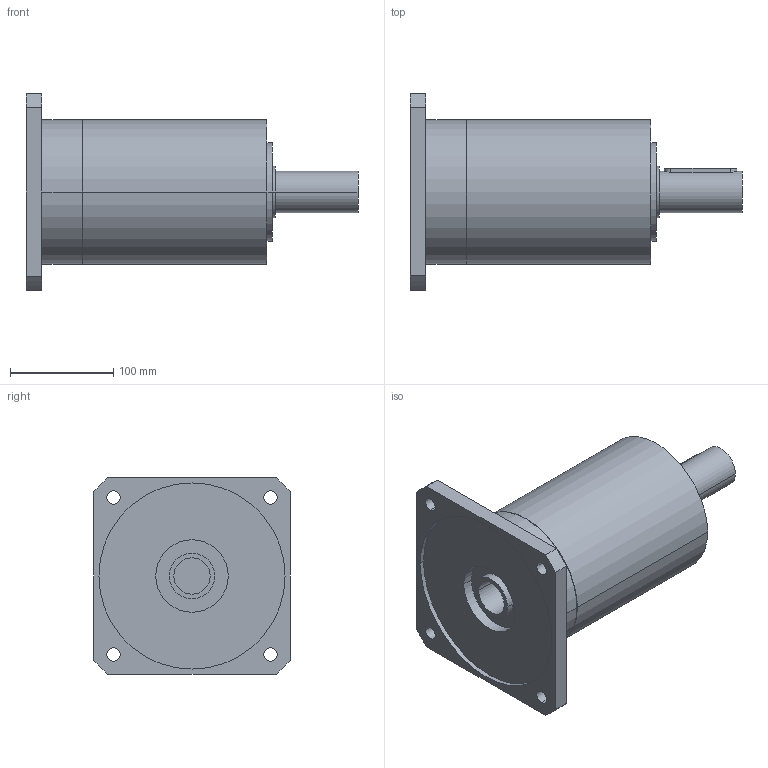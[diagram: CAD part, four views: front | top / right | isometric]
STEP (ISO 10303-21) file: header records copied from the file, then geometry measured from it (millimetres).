
FILE_DESCRIPTION(('CoCreate Modeling STEP Export'),'2;1');
FILE_NAME('GPR150_ig-9-12-16-20-28-35_40_B14_35_P06.stp','2014-08-19T17:04:16',(''),(''),'CoCreate Modeling STEP processor for AP214 (Solid Model)','CoCreate Modeling 16.00C 25-Feb-2009 (C) Parametric Technology GmbH','');
FILE_SCHEMA(('AUTOMOTIVE_DESIGN { 1 0 10303 214 1 1 1 1 }'));
Length unit declared in the file: millimetre
Products named in the file (2): GPR150_ig-9-12-16-20-28-35_40_B14_35_P06
Assembly tree (1 placements, depth 2):
  GPR150_ig-9-12-16-20-28-35_40_B14_35_P06
    GPR150_ig-9-12-16-20-28-35_40_B14_35_P06
Bounding box: 321 x 190 x 190 mm (x, y, z)
Volume: 3797598.7 mm3; surface area: 212051.8 mm2
Topology: 1 solids, 1 shells, 70 faces, 189 edges, 133 vertices
Faces by surface type: cylinder 42, plane 22, cone 6
Entity records: 1968 total; most frequent: CARTESIAN_POINT 385, ORIENTED_EDGE 374, DIRECTION 262, EDGE_CURVE 187, VERTEX_POINT 133, AXIS2_PLACEMENT_3D 98, EDGE_LOOP 92, FACE_OUTER_BOUND 70
